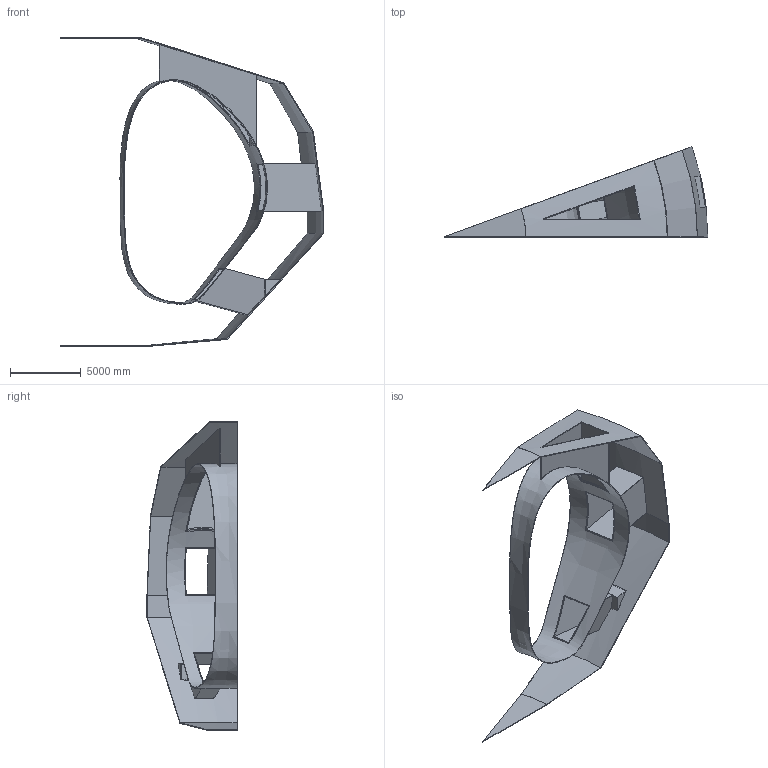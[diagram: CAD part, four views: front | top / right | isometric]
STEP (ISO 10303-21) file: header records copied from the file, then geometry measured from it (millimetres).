
FILE_DESCRIPTION(('FreeCAD Model'),'2;1');
FILE_NAME('Open CASCADE Shape Model','2026-10-11T08:18:56',('Bluemira'), ('Bluemira'),'Open CASCADE STEP processor 7.8','FreeCAD','Unknown');
FILE_SCHEMA(('AP242_MANAGED_MODEL_BASED_3D_ENGINEERING_MIM_LF. {1 0 10303 442 1 1 4 }'));
Length unit declared in the file: metre
Products named in the file (3): Unnamed; VVTS_1_1; Cryostat_TS_1_1
Assembly tree (2 placements, depth 2):
  Unnamed
    VVTS_1_1
    Cryostat_TS_1_1
Bounding box: 18692.06 x 6393.06 x 21872.55 mm (x, y, z)
Volume: 20221784701.9 mm3; surface area: 828473967.8 mm2
Topology: 2 solids, 2 shells, 87 faces, 232 edges, 155 vertices
Faces by surface type: plane 67, cone 13, revolution 5, cylinder 2
Entity records: 29143 total; most frequent: CARTESIAN_POINT 24830, DIRECTION 690, ORIENTED_EDGE 464, PCURVE 464, DEFINITIONAL_REPRESENTATION 464, LINE 345, VECTOR 345, EDGE_CURVE 232
